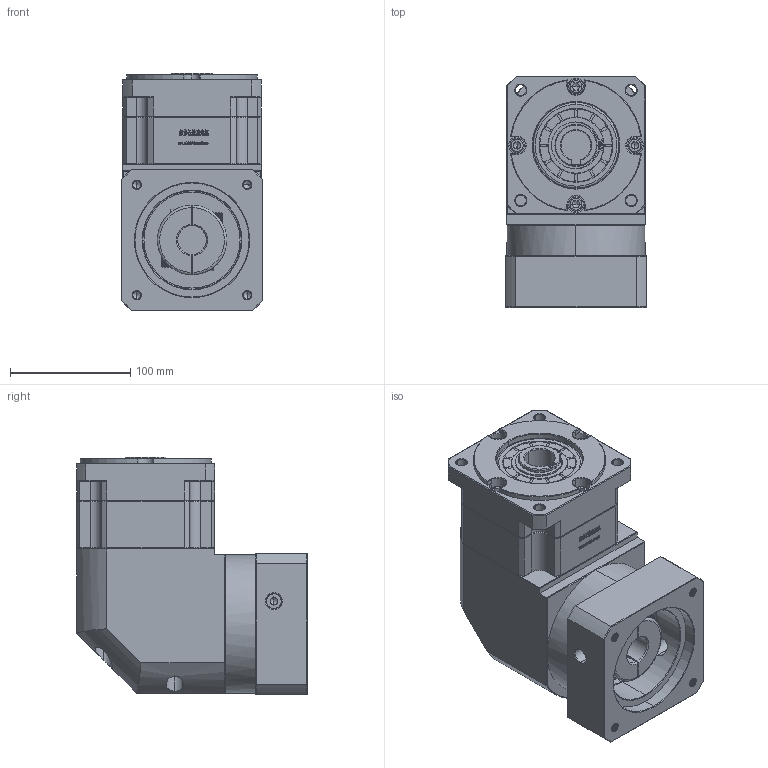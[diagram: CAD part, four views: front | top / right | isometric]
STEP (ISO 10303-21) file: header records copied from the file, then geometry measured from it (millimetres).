
FILE_DESCRIPTION (( 'STEP AP214' ), '1' );
FILE_NAME ('ZBR115A-K25-L1-24-95-130-M8.step', '2023-03-03T05:06:14', ( '' ), ( 'Microsoft' ), 'SwSTEP 2.0', 'SolidWorks 2016', '' );
FILE_SCHEMA (( 'AUTOMOTIVE_DESIGN' ));
Length unit declared in the file: millimetre
Products named in the file (1): ZBR115A-K25-L1-24-95-130-M8
Bounding box: 118 x 192.4 x 198 mm (x, y, z)
Volume: 2913789.8 mm3; surface area: 244399.7 mm2
Topology: 6 solids, 6 shells, 2926 faces, 7778 edges, 4998 vertices
Faces by surface type: plane 1552, bspline 597, cylinder 406, cone 363, torus 8
Entity records: 156433 total; most frequent: CARTESIAN_POINT 56127, ORIENTED_EDGE 15500, DIRECTION 11771, EDGE_CURVE 7750, VECTOR 5255, LINE 5255, VERTEX_POINT 4998, AXIS2_PLACEMENT_3D 3258
